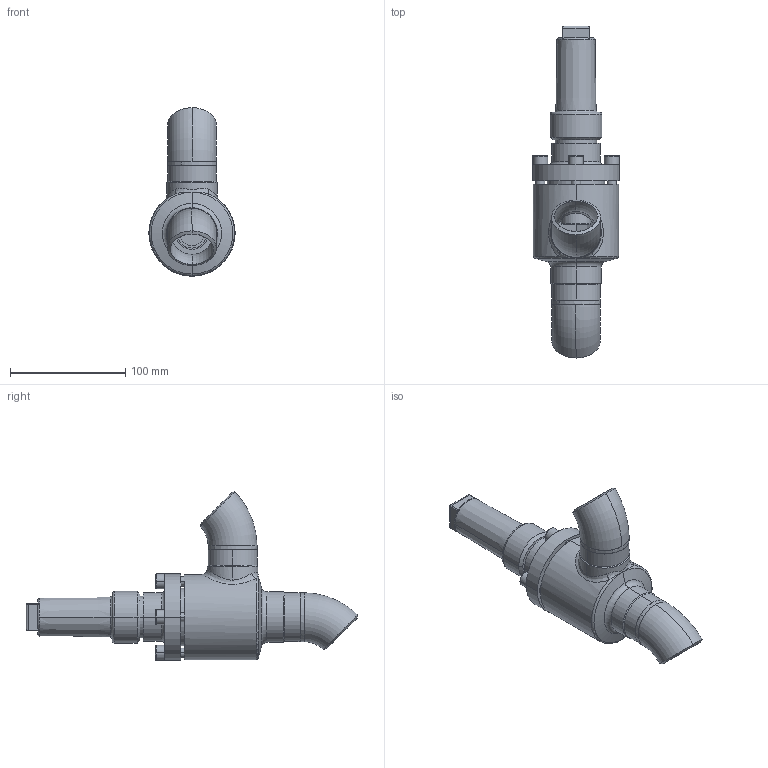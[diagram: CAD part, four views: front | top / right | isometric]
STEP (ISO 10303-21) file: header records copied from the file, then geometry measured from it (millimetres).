
FILE_DESCRIPTION (( 'STEP AP214' ), '1' );
FILE_NAME ('HRAB12300D13-DN032_R1_PS40.STEP', '2006-04-27T11:54:27', ( 'Herr Grams' ), ( 'AWP GmbH' ), 'SwSTEP 2.0', 'SolidWorks 2002296', '' );
FILE_SCHEMA (( 'AUTOMOTIVE_DESIGN' ));
Length unit declared in the file: millimetre
Products named in the file (10): HRAB12300D13-DN032_R1_PS40; Kappe16402_DN010-32_Standard; Gehäuse-kpl16300-DN032_R1_Standard; bead16300-Geh-032-2_Standard; bead16300-Geh-032-1_Standard; Rohrbogen 45°_R1-Fase_Rohrbogen-DN032-45°; Gehäuse16400-DN032_Standard; AVB16300E13_Deck+Schr-DN25-32_Standard; Deckel16300E13-DN25-32_Standard; Zylinderschraube-DIN912_M 8x 25
Assembly tree (13 placements, depth 3):
  HRAB12300D13-DN032_R1_PS40
    Gehäuse-kpl16300-DN032_R1_Standard
      bead16300-Geh-032-2_Standard
      bead16300-Geh-032-1_Standard
      Gehäuse16400-DN032_Standard
      Rohrbogen 45°_R1-Fase_Rohrbogen-DN032-45°  x2
    AVB16300E13_Deck+Schr-DN25-32_Standard
      Zylinderschraube-DIN912_M 8x 25  x4
      Deckel16300E13-DN25-32_Standard
    Kappe16402_DN010-32_Standard
Bounding box: 75 x 288.43 x 146.43 mm (x, y, z)
Volume: 390226.8 mm3; surface area: 116043.6 mm2
Topology: 11 solids, 11 shells, 251 faces, 562 edges, 353 vertices
Faces by surface type: cylinder 86, plane 76, cone 48, torus 31, bspline 10
Entity records: 34447 total; most frequent: CARTESIAN_POINT 29468, DIRECTION 928, ORIENTED_EDGE 852, EDGE_CURVE 426, AXIS2_PLACEMENT_3D 393, VERTEX_POINT 267, EDGE_LOOP 219, CIRCLE 198
